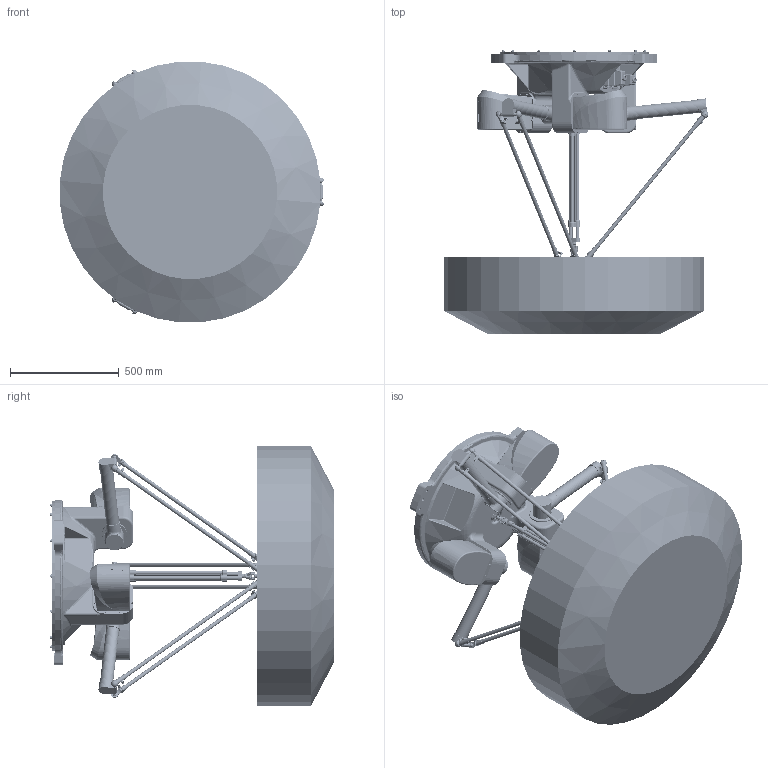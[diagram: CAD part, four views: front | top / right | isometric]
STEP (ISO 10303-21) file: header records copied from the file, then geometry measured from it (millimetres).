
FILE_DESCRIPTION(('STEP AP214'),'1');
FILE_NAME('.stp','2020-05-15T02:59:12',(' '),(' '),'Spatial InterOp 3D',' ',' ');
FILE_SCHEMA(('AUTOMOTIVE_DESIGN { 1 0 10303 214 1 1 1 1 }'));
Length unit declared in the file: millimetre
Products named in the file (1): TSRT0022-100-0-5/TSRT0022-103-0-1-solid1
Bounding box: 1213.28 x 1300.6 x 1195.57 mm (x, y, z)
Volume: 49479861.6 mm3; surface area: 10936874.6 mm2
Topology: 555 solids, 556 shells, 31197 faces, 78525 edges, 49158 vertices
Faces by surface type: plane 15998, cylinder 7456, cone 3908, torus 1859, bspline 1673, sphere 303
Entity records: 1366886 total; most frequent: CARTESIAN_POINT 375603, ORIENTED_EDGE 155242, DIRECTION 149180, EDGE_CURVE 77621, AXIS2_PLACEMENT_3D 51457, VERTEX_POINT 49158, LINE 46266, VECTOR 46266
